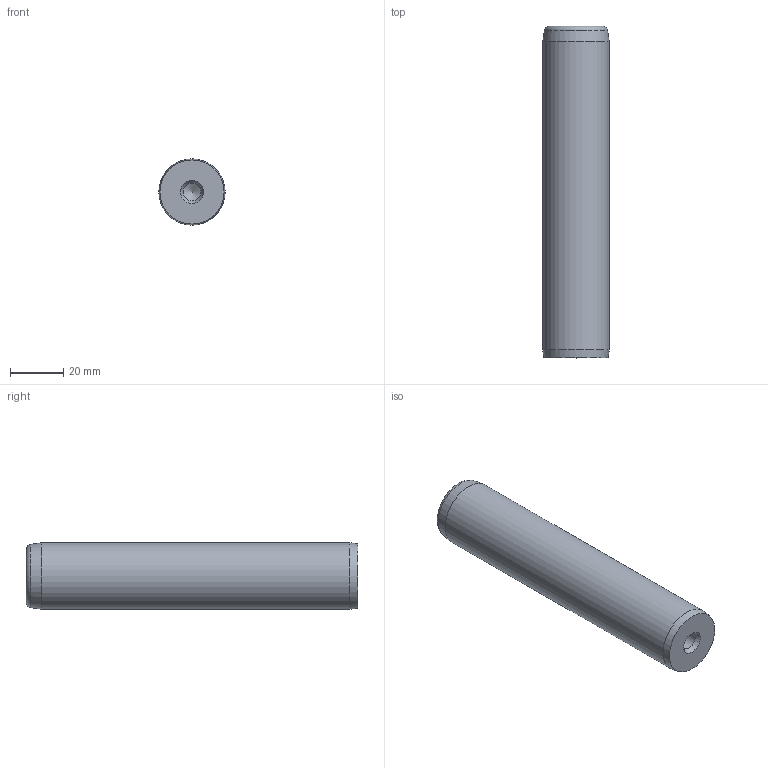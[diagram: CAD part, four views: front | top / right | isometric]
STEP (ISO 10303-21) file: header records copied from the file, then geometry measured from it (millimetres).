
FILE_DESCRIPTION( ( 'STEP AP203' ), '1' );
FILE_NAME( 'D:/Cuma/D14/D14_25125.step', '2003-01-18T23:29:13', ( ' ' ), ( ' ' ), 'XStep 1.0', ' ', ' ' );
FILE_SCHEMA( ( 'CONFIG_CONTROL_DESIGN' ) );
Length unit declared in the file: metre
Products named in the file (1): 1
Bounding box: 25 x 125 x 25 mm (x, y, z)
Volume: 59106.6 mm3; surface area: 11742.7 mm2
Topology: 1 solids, 1 shells, 14 faces, 29 edges, 17 vertices
Faces by surface type: cone 6, cylinder 5, plane 2, torus 1
Full cylindrical faces by diameter (mm): 6.75 x4, 25 x1
Entity records: 327 total; most frequent: DIRECTION 56, CARTESIAN_POINT 43, AXIS2_PLACEMENT_3D 28, EDGE_LOOP 26, ORIENTED_EDGE 26, FACE_OUTER_BOUND 20, VERTEX_POINT 15, ADVANCED_FACE 14
